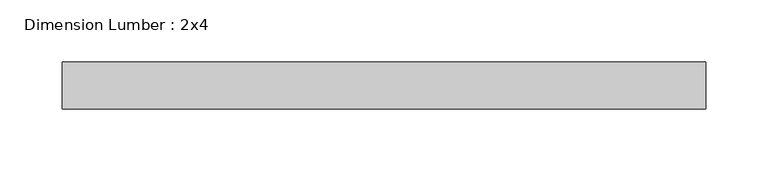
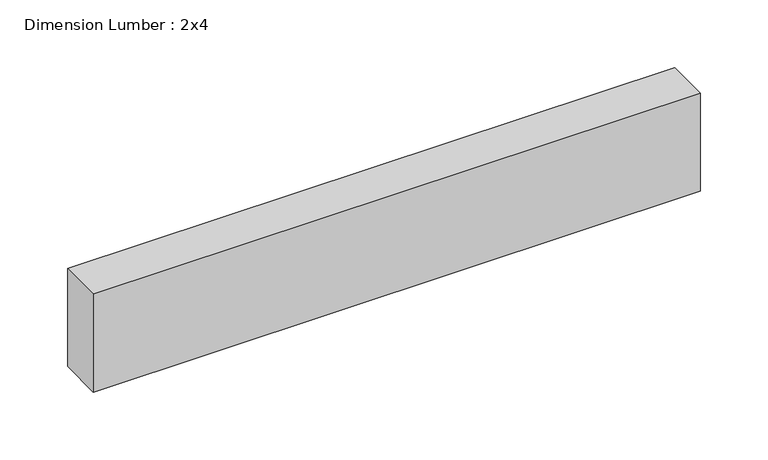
"""IFC4 building model written with IfcOpenShell, lengths in millimetres: beam geometry, Dimension Lumber : 2x4."""

from ifc_helpers import new_model, si_unit, frame, origin, place, context, project, spatial, polyline, outline, extrude, source, transform, mapped, element, save


def dimension_lumber_2x4_69e9bc74(model_context):
    return source(origin(), model_context, "Body", "SweptSolid", [
        extrude(outline(polyline([(273.8896354, 19.05), (273.8896354, -19.05), (-245.3016272, -19.05), (-245.3016272, 19.05), (273.8896354, 19.05)])), frame((0.0, 0.0, -44.45), z_axis=(0.0, 0.0, 1.0), x_axis=(1.0, 0.0, 0.0)), (0.0, 0.0, 1.0), 88.9),
    ])


if __name__ == "__main__":
    model = new_model("IFC4")
    model_context = context("Model", 3, world=origin())
    ifc_project = project(units=[si_unit("LENGTHUNIT", "METRE", prefix="MILLI")], contexts=[model_context])
    site = spatial("IfcSite", under=ifc_project)
    building = spatial("IfcBuilding", under=site)
    placement = place(None, origin())
    dimension_lumber_2x4_shape = dimension_lumber_2x4_69e9bc74(model_context)
    element("IfcBeam", 1, ObjectType="Dimension Lumber : 2x4", at=placement, inside=building, context=model_context, shape_type="MappedRepresentation", body=[
        mapped(dimension_lumber_2x4_shape, transform((0.0, 0.0, 0.0), x_axis=(1.0, 0.0, 0.0), y_axis=(0.0, 1.0, 0.0), z_axis=(0.0, 0.0, 1.0))),
    ])
    save(model, "model.ifc")
